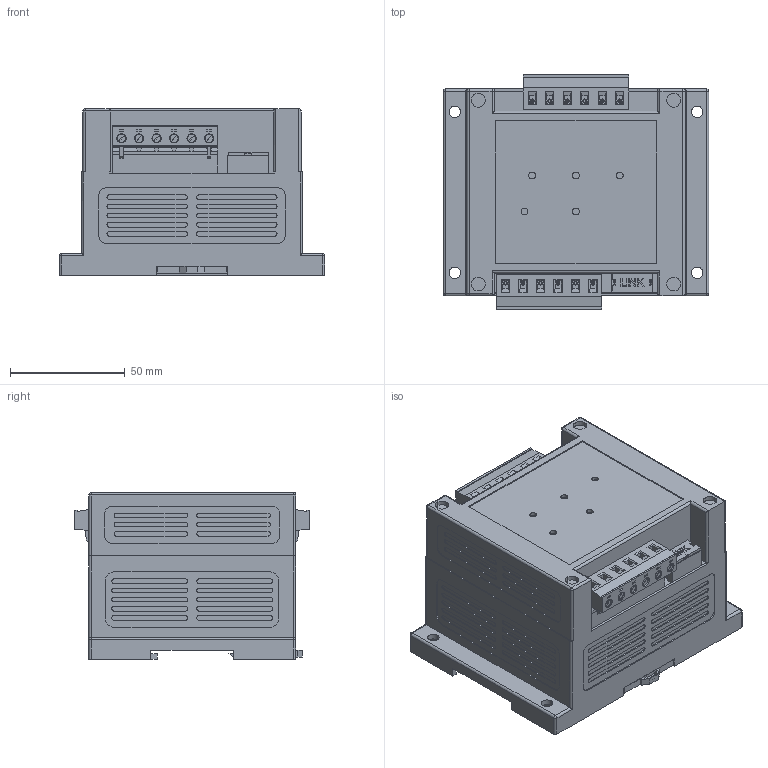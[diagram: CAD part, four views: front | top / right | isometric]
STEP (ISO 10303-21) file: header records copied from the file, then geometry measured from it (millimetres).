
FILE_DESCRIPTION (( 'STEP AP203' ), '1' );
FILE_NAME ('萇埭耀輸.STEP', '2025-03-13T07:39:13', ( '' ), ( '' ), 'SwSTEP 2.0', 'SolidWorks 2018', '' );
FILE_SCHEMA (( 'CONFIG_CONTROL_DESIGN' ));
Products named in the file (1): 萇埭耀輸
Bounding box: 115.5 x 101.97 x 72.5 mm (x, y, z)
Volume: 592927.4 mm3; surface area: 111193.3 mm2
Topology: 3 solids, 5 shells, 2580 faces, 6873 edges, 4417 vertices
Faces by surface type: plane 1903, cylinder 572, cone 48, torus 48, sphere 9
Entity records: 79650 total; most frequent: CARTESIAN_POINT 13967, ORIENTED_EDGE 13728, DIRECTION 13452, EDGE_CURVE 6864, LINE 5368, VECTOR 5368, VERTEX_POINT 4417, AXIS2_PLACEMENT_3D 4042
